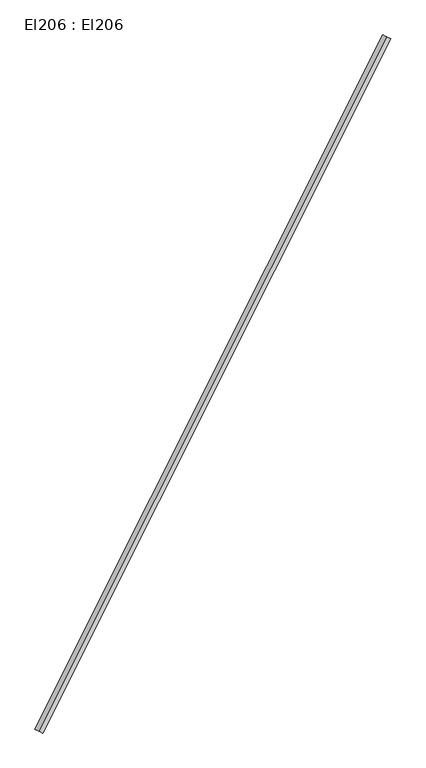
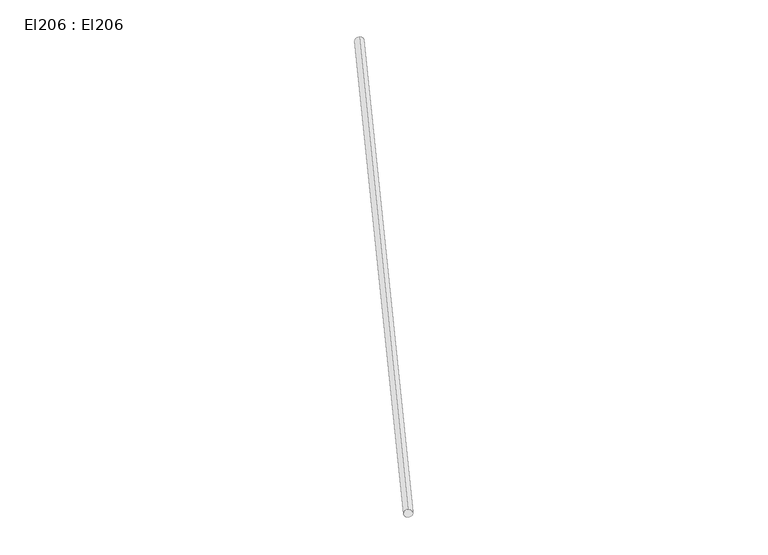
"""IFC4 building model written with IfcOpenShell, lengths in millimetres: cable carrier segment geometry, El206 : El206."""

from ifc_helpers import new_model, si_unit, point, frame, frame_2d, origin, place, context, project, spatial, circle_curve, trimmed, segment, composite_curve, outline, extrude, source, transform, mapped, element, save


def el206_el206_fa24a997(model_context):
    return source(origin(), model_context, "Body", "SweptSolid", [
        extrude(outline(composite_curve([segment(trimmed(circle_curve(frame_2d((0.0, -9.5)), 9.5), [point((0.0, -19.0))], [point((0.0, 0.0))], False, "CARTESIAN"), True, "CONTINUOUS"), segment(trimmed(circle_curve(frame_2d((0.0, -9.5)), 9.5), [point((0.0, 0.0))], [point((0.0, -19.0))], False, "CARTESIAN"), True, "CONTINUOUS")], self_intersect=False)), frame((2608.175, 25210.916, 2959.5), z_axis=(0.44780309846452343, 0.8941321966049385, 0.0), x_axis=(-0.8941321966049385, 0.44780309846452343, 0.0)), (0.0, 0.0, 1.0), 1638.65),
    ])


if __name__ == "__main__":
    model = new_model("IFC4")
    model_context = context("Model", 3, world=origin())
    ifc_project = project(units=[si_unit("LENGTHUNIT", "METRE", prefix="MILLI")], contexts=[model_context])
    site = spatial("IfcSite", under=ifc_project)
    building = spatial("IfcBuilding", under=site)
    placement = place(None, origin())
    el206_el206_shape = el206_el206_fa24a997(model_context)
    element("IfcCableCarrierSegment", 1, ObjectType="El206 : El206", at=placement, inside=building, context=model_context, shape_type="MappedRepresentation", body=[
        mapped(el206_el206_shape, transform((0.0, 0.0, 0.0), x_axis=(1.0, 0.0, 0.0), y_axis=(0.0, 1.0, 0.0), z_axis=(0.0, 0.0, 1.0))),
    ])
    save(model, "model.ifc")
